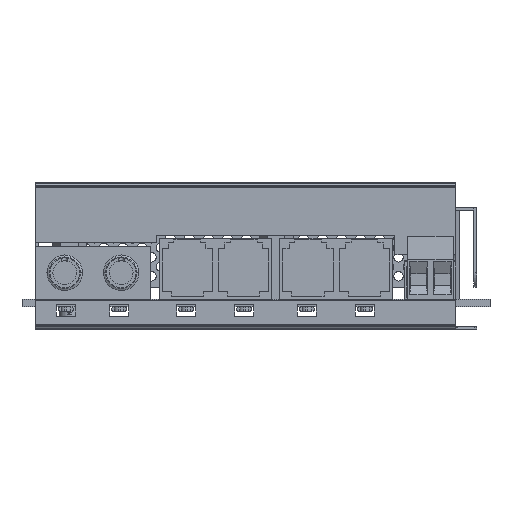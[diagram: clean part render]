
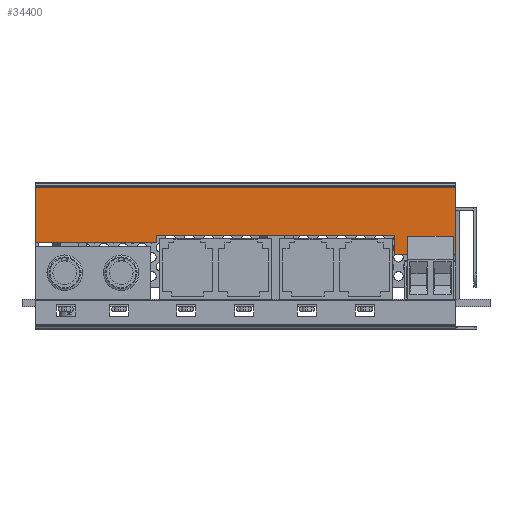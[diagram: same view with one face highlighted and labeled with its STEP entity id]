
A CAD part, front view. The second image highlights one B-rep face of the part: STEP entity #34400.
In plain terms, the highlighted planar face has unit normal (0, -1, 0).
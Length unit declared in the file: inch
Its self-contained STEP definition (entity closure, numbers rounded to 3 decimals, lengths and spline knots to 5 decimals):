
#14382 = EDGE_CURVE( '', #19872, #30492, #38039, .T. );
#14410 = EDGE_CURVE( '', #21792, #33416, #38179, .T. );
#15864 = VERTEX_POINT( '', #39778 );
#16104 = EDGE_CURVE( '', #28286, #26888, #40047, .T. );
#16222 = EDGE_CURVE( '', #33416, #17334, #40174, .T. );
#17334 = VERTEX_POINT( '', #41400 );
#17760 = EDGE_CURVE( '', #21792, #28286, #41862, .T. );
#19294 = EDGE_CURVE( '', #15864, #19872, #43562, .T. );
#19872 = VERTEX_POINT( '', #44190 );
#19904 = EDGE_CURVE( '', #34684, #22992, #44223, .T. );
#20416 = EDGE_CURVE( '', #26888, #21114, #44793, .T. );
#21114 = VERTEX_POINT( '', #45753 );
#21792 = VERTEX_POINT( '', #46614 );
#22848 = EDGE_CURVE( '', #17334, #30492, #47773, .T. );
#22992 = VERTEX_POINT( '', #47930 );
#23666 = EDGE_CURVE( '', #34684, #21114, #48864, .T. );
#25426 = EDGE_CURVE( '', #27378, #15864, #50972, .T. );
#26888 = VERTEX_POINT( '', #52574 );
#27378 = VERTEX_POINT( '', #53124 );
#28286 = VERTEX_POINT( '', #54115 );
#30492 = VERTEX_POINT( '', #56535 );
#33416 = VERTEX_POINT( '', #59750 );
#34394 = EDGE_CURVE( '', #22992, #27378, #60813, .T. );
#34400 = ADVANCED_FACE( '', ( #60821 ), #60822, .F. );
#34684 = VERTEX_POINT( '', #61132 );
#38039 = LINE( '', #65480, #65481 );
#38179 = LINE( '', #65634, #65635 );
#39778 = CARTESIAN_POINT( '', ( 3.24964, 0.008, 0.701 ) );
#40047 = LINE( '', #68137, #68138 );
#40174 = LINE( '', #68302, #68303 );
#41400 = CARTESIAN_POINT( '', ( 3.01182, 0.008, 0.782 ) );
#41862 = LINE( '', #70559, #70560 );
#43562 = LINE( '', #72820, #72821 );
#44190 = CARTESIAN_POINT( '', ( 3.24964, 0.008, 0.621 ) );
#44223 = LINE( '', #73728, #73729 );
#44793 = LINE( '', #74502, #74503 );
#45753 = CARTESIAN_POINT( '', ( 3.52182, 0.008, 1.201 ) );
#46614 = CARTESIAN_POINT( '', ( 1.00582, 0.008, 0.721 ) );
#47773 = LINE( '', #78454, #78455 );
#47930 = CARTESIAN_POINT( '', ( 3.37964, 0.008, 0.621 ) );
#48864 = LINE( '', #79857, #79858 );
#50972 = LINE( '', #82618, #82619 );
#52574 = CARTESIAN_POINT( '', ( -0.01818, 0.008, 1.201 ) );
#53124 = CARTESIAN_POINT( '', ( 3.37964, 0.008, 0.701 ) );
#54115 = CARTESIAN_POINT( '', ( -0.01818, 0.008, 0.721 ) );
#56535 = CARTESIAN_POINT( '', ( 3.01182, 0.008, 0.621 ) );
#59750 = CARTESIAN_POINT( '', ( 1.00582, 0.008, 0.782 ) );
#60813 = LINE( '', #95898, #95899 );
#60821 = FACE_OUTER_BOUND( '', #95907, .T. );
#60822 = PLANE( '', #95908 );
#61132 = CARTESIAN_POINT( '', ( 3.52182, 0.008, 0.621 ) );
#65480 = CARTESIAN_POINT( '', ( 3.24964, 0.008, 0.621 ) );
#65481 = VECTOR( '', #100302, 1. );
#65634 = CARTESIAN_POINT( '', ( 1.00582, 0.008, 0.87444 ) );
#65635 = VECTOR( '', #100556, 1. );
#68137 = CARTESIAN_POINT( '', ( -0.01818, 0.008, 1.09644 ) );
#68138 = VECTOR( '', #102739, 1. );
#68302 = CARTESIAN_POINT( '', ( 1.4151, 0.008, 0.782 ) );
#68303 = VECTOR( '', #102864, 1. );
#70559 = CARTESIAN_POINT( '', ( 1.01082, 0.008, 0.721 ) );
#70560 = VECTOR( '', #104815, 1. );
#72820 = CARTESIAN_POINT( '', ( 3.24964, 0.008, 0.701 ) );
#72821 = VECTOR( '', #106889, 1. );
#73728 = CARTESIAN_POINT( '', ( 3.52063, 0.008, 0.621 ) );
#73729 = VECTOR( '', #107639, 1. );
#74502 = CARTESIAN_POINT( '', ( 1.80051, 0.008, 1.201 ) );
#74503 = VECTOR( '', #108383, 1. );
#78454 = CARTESIAN_POINT( '', ( 3.01182, 0.008, 0.79394 ) );
#78455 = VECTOR( '', #112119, 1. );
#79857 = CARTESIAN_POINT( '', ( 3.52182, 0.008, 1.226 ) );
#79858 = VECTOR( '', #113513, 1. );
#82618 = CARTESIAN_POINT( '', ( 3.37964, 0.008, 0.701 ) );
#82619 = VECTOR( '', #116061, 1. );
#95898 = CARTESIAN_POINT( '', ( 3.37964, 0.008, 0.621 ) );
#95899 = VECTOR( '', #127476, 1. );
#95907 = EDGE_LOOP( '', ( #127494, #127495, #127496, #127497, #127498, #127499, #127500, #127501, #127502, #127503, #127504, #127505 ) );
#95908 = AXIS2_PLACEMENT_3D( '', #127506, #127507, #127508 );
#100302 = DIRECTION( '', ( -1., 0., 0. ) );
#100556 = DIRECTION( '', ( 0., 0., 1. ) );
#102739 = DIRECTION( '', ( 0., 0., 1. ) );
#102864 = DIRECTION( '', ( 1., 0., 0. ) );
#104815 = DIRECTION( '', ( -1., 0., 0. ) );
#106889 = DIRECTION( '', ( 0., 0., -1. ) );
#107639 = DIRECTION( '', ( -1., 0., 0. ) );
#108383 = DIRECTION( '', ( 1., 0., 0. ) );
#112119 = DIRECTION( '', ( 0., 0., -1. ) );
#113513 = DIRECTION( '', ( 0., 0., 1. ) );
#116061 = DIRECTION( '', ( -1., 0., 0. ) );
#127476 = DIRECTION( '', ( 0., 0., 1. ) );
#127494 = ORIENTED_EDGE( '', *, *, #22848, .T. );
#127495 = ORIENTED_EDGE( '', *, *, #14382, .F. );
#127496 = ORIENTED_EDGE( '', *, *, #19294, .F. );
#127497 = ORIENTED_EDGE( '', *, *, #25426, .F. );
#127498 = ORIENTED_EDGE( '', *, *, #34394, .F. );
#127499 = ORIENTED_EDGE( '', *, *, #19904, .F. );
#127500 = ORIENTED_EDGE( '', *, *, #23666, .T. );
#127501 = ORIENTED_EDGE( '', *, *, #20416, .F. );
#127502 = ORIENTED_EDGE( '', *, *, #16104, .F. );
#127503 = ORIENTED_EDGE( '', *, *, #17760, .F. );
#127504 = ORIENTED_EDGE( '', *, *, #14410, .T. );
#127505 = ORIENTED_EDGE( '', *, *, #16222, .T. );
#127506 = CARTESIAN_POINT( '', ( 1.81938, 0.008, 0.96687 ) );
#127507 = DIRECTION( '', ( 0., 1., 0. ) );
#127508 = DIRECTION( '', ( 0., 0., 1. ) );
